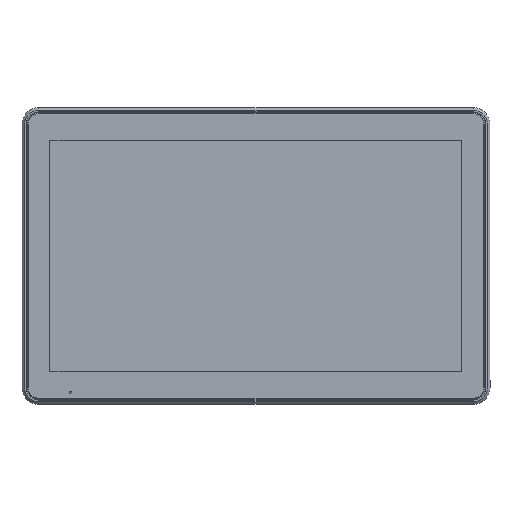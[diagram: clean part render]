
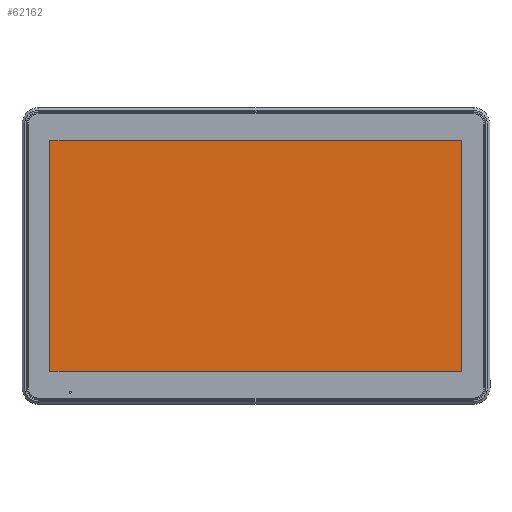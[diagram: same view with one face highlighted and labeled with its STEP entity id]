
A CAD part, top view. The second image highlights one B-rep face of the part: STEP entity #62162.
In plain terms, the highlighted planar face has unit normal (0, 0, 1).
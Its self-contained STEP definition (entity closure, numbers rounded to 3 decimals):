
#2358=PLANE('',#65628);
#7200=LINE('',#105820,#12722);
#7201=LINE('',#105822,#12723);
#7202=LINE('',#105824,#12724);
#7203=LINE('',#105825,#12725);
#12722=VECTOR('',#76662,10.);
#12723=VECTOR('',#76663,10.);
#12724=VECTOR('',#76664,10.);
#12725=VECTOR('',#76665,10.);
#16885=FACE_OUTER_BOUND('',#20398,.T.);
#20398=EDGE_LOOP('',(#51650,#51651,#51652,#51653));
#28853=VERTEX_POINT('',#105818);
#28854=VERTEX_POINT('',#105819);
#28855=VERTEX_POINT('',#105821);
#28856=VERTEX_POINT('',#105823);
#36698=EDGE_CURVE('',#28853,#28854,#7200,.T.);
#36699=EDGE_CURVE('',#28854,#28855,#7201,.T.);
#36700=EDGE_CURVE('',#28855,#28856,#7202,.T.);
#36701=EDGE_CURVE('',#28856,#28853,#7203,.T.);
#51650=ORIENTED_EDGE('',*,*,#36698,.T.);
#51651=ORIENTED_EDGE('',*,*,#36699,.T.);
#51652=ORIENTED_EDGE('',*,*,#36700,.T.);
#51653=ORIENTED_EDGE('',*,*,#36701,.T.);
#62162=ADVANCED_FACE('',(#16885),#2358,.T.);
#65628=AXIS2_PLACEMENT_3D('',#105817,#76660,#76661);
#76660=DIRECTION('center_axis',(0.,0.,
1.));
#76661=DIRECTION('ref_axis',(-1.,0.,0.));
#76662=DIRECTION('',(1.,0.,0.));
#76663=DIRECTION('',(0.,1.,0.));
#76664=DIRECTION('',(-1.,0.,0.));
#76665=DIRECTION('',(0.,-1.,0.));
#105817=CARTESIAN_POINT('Origin',(-0.25,-0.6,
2.998));
#105818=CARTESIAN_POINT('',(-205.6,-115.9,2.998));
#105819=CARTESIAN_POINT('',(204.6,-115.9,2.998));
#105820=CARTESIAN_POINT('',(-0.375,-115.9,2.998));
#105821=CARTESIAN_POINT('',(204.6,114.9,2.998));
#105822=CARTESIAN_POINT('',(204.6,-0.55,2.998));
#105823=CARTESIAN_POINT('',(-205.6,114.9,2.998));
#105824=CARTESIAN_POINT('',(-102.925,114.9,2.998));
#105825=CARTESIAN_POINT('',(-205.6,-58.25,2.998));
